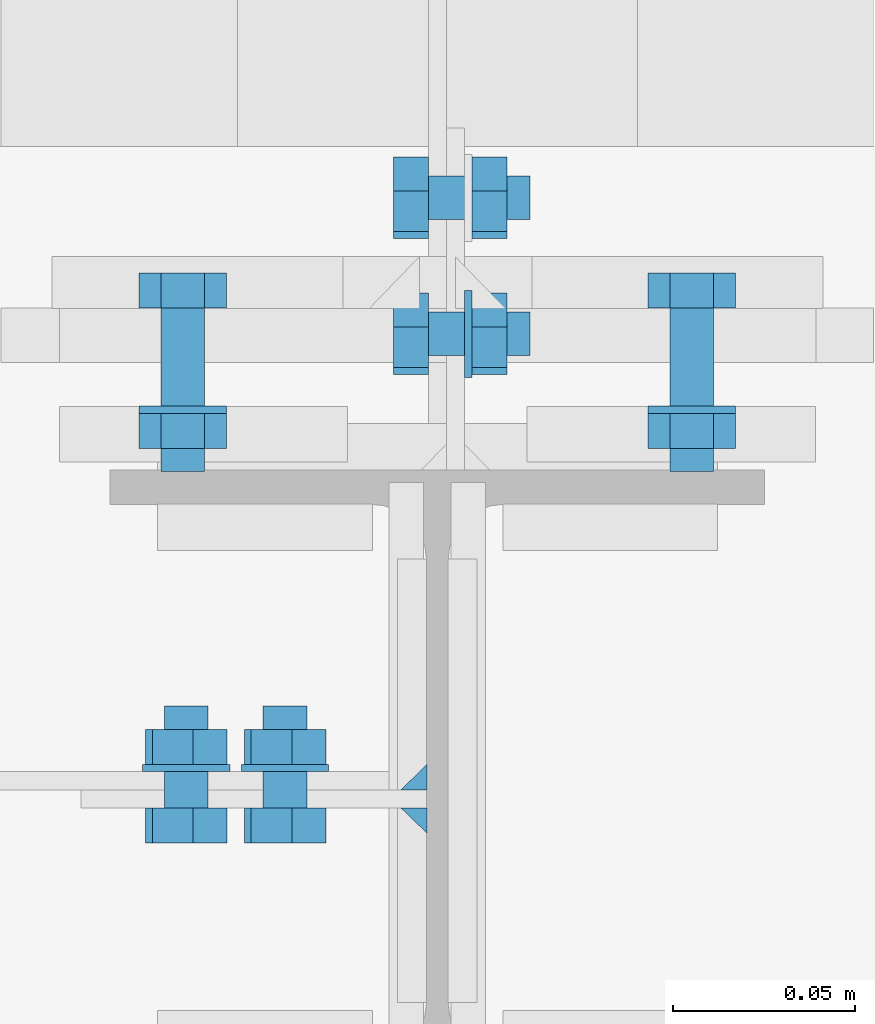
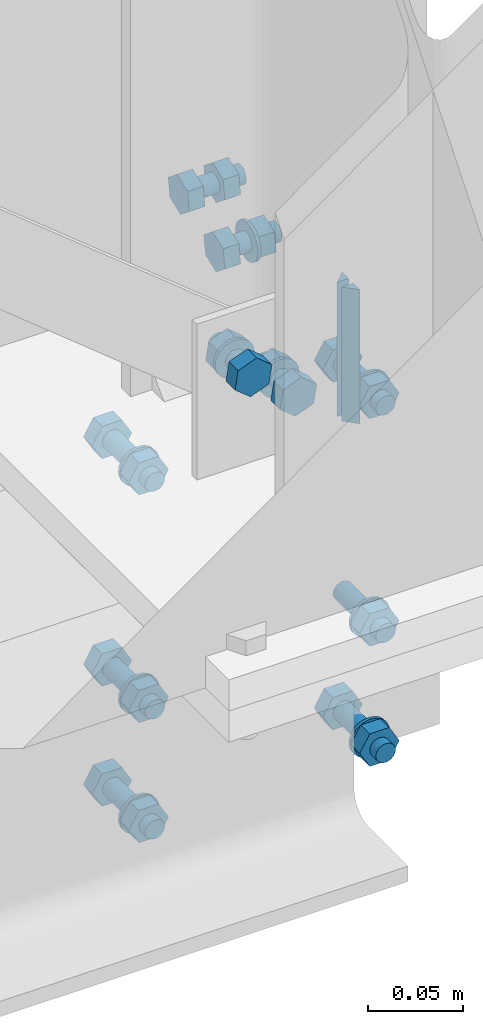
# One storey, part 56 of 66: 38 mechanical fasteners, 2 fasteners.
"""IFC4 building model written with IfcOpenShell, lengths in metres."""

from ifc_helpers import new_model, si_unit, frame, origin_with_axes, place, context, project, spatial, polyline, outline, extrude, type_object, element, save


model = new_model("IFC4")

# Units and contexts
model_context = context("Model", 3, precision=1e-05, world=origin_with_axes())
ifc_project = project(units=[si_unit("LENGTHUNIT", "METRE"), si_unit("AREAUNIT", "SQUARE_METRE"), si_unit("VOLUMEUNIT", "CUBIC_METRE"), si_unit("MASSUNIT", "GRAM", prefix="KILO"), si_unit("TIMEUNIT", "SECOND"), si_unit("PLANEANGLEUNIT", "RADIAN"), si_unit("SOLIDANGLEUNIT", "STERADIAN"), si_unit("THERMODYNAMICTEMPERATUREUNIT", "DEGREE_CELSIUS")], contexts=[model_context])

# Site, building, storey
placement_1 = place(None, origin_with_axes())
site = spatial("IfcSite", under=ifc_project, at=placement_1, Name="Italia", CompositionType="ELEMENT")
building = spatial("IfcBuilding", under=site, at=placement_1, Name="Uffici", CompositionType="ELEMENT")
storey_placement = place(None, frame((0.0, 0.0, 3.299999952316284), z_axis=(0.0, 0.0, 1.0), x_axis=(1.0, 0.0, 0.0)))
storey = spatial("IfcBuildingStorey", under=building, at=storey_placement, Name="Storey 1", CompositionType="ELEMENT", Elevation=3.299999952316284)

# Mechanical fasteners
mechanical_fastener_type_1 = type_object("IfcMechanicalFastenerType", Name="Collegamento 0105_-005", PredefinedType="BOLT")
placement_2 = place(placement_1, origin_with_axes())
mechanical_fastener_1_placement = place(placement_2, origin_with_axes())
element("IfcMechanicalFastener", 1, at=mechanical_fastener_1_placement, inside=storey, type_object=mechanical_fastener_type_1, Name="Collegamento 0105_-005", NominalDiameter=0.012, context=model_context, shape_type="SweptSolid", body=[
    extrude(outline(polyline([(0.0, 0.0), (-0.000204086, -0.00155282), (-0.000802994, -0.00300002), (-0.00175667, -0.00424266), (-0.00299931, -0.00519609), (-0.00444698, -0.00579548), (-0.00599957, -0.00600004), (-0.00755215, -0.00579548), (-0.00899982, -0.00519609), (-0.0102425, -0.00424266), (-0.0111961, -0.00300002), (-0.011795, -0.00155282), (-0.0119991, 0.0), (-0.011795, 0.00155282), (-0.0111961, 0.00300002), (-0.0102425, 0.00424266), (-0.00899982, 0.00519609), (-0.00755215, 0.00579548), (-0.00599957, 0.00600004), (-0.00444698, 0.00579548), (-0.00299931, 0.00519609), (-0.00175667, 0.00424266), (-0.000802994, 0.00300002), (-0.000204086, 0.00155282), (0.0, 0.0)])), frame((14.034, 0.085, 3.107), z_axis=(0.0, 1.0, 0.0), x_axis=(-1.0, 0.0, 0.0)), (0.0, 0.0, 1.0), 0.045),
])
mechanical_fastener_type_2 = type_object("IfcMechanicalFastenerType", Name="Collegamento 0105_-005", PredefinedType="BOLT")
mechanical_fastener_2_placement = place(placement_2, origin_with_axes())
element("IfcMechanicalFastener", 2, at=mechanical_fastener_2_placement, inside=storey, type_object=mechanical_fastener_type_2, Name="Collegamento 0105_-005", NominalDiameter=0.0119997, context=model_context, shape_type="SweptSolid", body=[
    extrude(outline(polyline([(0.0, 0.0), (-0.0120001, 0.0), (-0.0179996, 0.0103924), (-0.0120001, 0.0207846), (0.0, 0.0207846), (0.00600052, 0.0103924), (0.0, 0.0)])), frame((14.034, 0.0914, 3.09661), z_axis=(0.0, 1.0, 0.0), x_axis=(-1.0, 0.0, 0.0)), (0.0, 0.0, 1.0), 0.0096),
])
mechanical_fastener_type_3 = type_object("IfcMechanicalFastenerType", Name="Collegamento 0105_-005", PredefinedType="BOLT")
mechanical_fastener_3_placement = place(placement_2, origin_with_axes())
element("IfcMechanicalFastener", 3, at=mechanical_fastener_3_placement, inside=storey, type_object=mechanical_fastener_type_3, Name="Collegamento 0105_-005", NominalDiameter=0.024, context=model_context, shape_type="SweptSolid", body=[
    extrude(outline(polyline([(0.0, 0.0), (-0.000409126, -0.00310588), (-0.00160789, -0.00600004), (-0.00351524, -0.00848532), (-0.00600052, -0.0103922), (-0.00889397, -0.0115912), (-0.0120001, -0.0120001), (-0.0151062, -0.0115912), (-0.0179996, -0.0103922), (-0.0204849, -0.00848532), (-0.0223923, -0.00600004), (-0.023591, -0.00310588), (-0.0240002, 0.0), (-0.023591, 0.00310588), (-0.0223923, 0.00600004), (-0.0204849, 0.00848532), (-0.0179996, 0.0103922), (-0.0151062, 0.0115912), (-0.0120001, 0.0120001), (-0.00889397, 0.0115912), (-0.00600052, 0.0103922), (-0.00351524, 0.00848532), (-0.00160789, 0.00600004), (-0.000409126, 0.00310588), (0.0, 0.0)])), frame((14.028, 0.101, 3.107), z_axis=(0.0, 1.0, 0.0), x_axis=(-1.0, 0.0, 0.0)), (0.0, 0.0, 1.0), 0.002),
])
mechanical_fastener_type_4 = type_object("IfcMechanicalFastenerType", Name="Collegamento 0105_-005", PredefinedType="BOLT")
mechanical_fastener_4_placement = place(placement_2, origin_with_axes())
element("IfcMechanicalFastener", 4, at=mechanical_fastener_4_placement, inside=storey, type_object=mechanical_fastener_type_4, Name="Collegamento 0105_-005", NominalDiameter=0.0119997, context=model_context, shape_type="SweptSolid", body=[
    extrude(outline(polyline([(0.0, 0.0), (-0.0120001, 0.0), (-0.0180006, 0.0103924), (-0.0120001, 0.0207846), (0.0, 0.0207846), (0.00599957, 0.0103924), (0.0, 0.0)])), frame((13.894, 0.13, 3.09661), z_axis=(0.0, 1.0, 0.0), x_axis=(-1.0, 0.0, 0.0)), (0.0, 0.0, 1.0), 0.0096),
])
mechanical_fastener_type_5 = type_object("IfcMechanicalFastenerType", Name="Collegamento 0105_-005", PredefinedType="BOLT")
mechanical_fastener_5_placement = place(placement_2, origin_with_axes())
element("IfcMechanicalFastener", 5, at=mechanical_fastener_5_placement, inside=storey, type_object=mechanical_fastener_type_5, Name="Collegamento 0105_-005", NominalDiameter=0.012, context=model_context, shape_type="SweptSolid", body=[
    extrude(outline(polyline([(0.0, 0.0), (-0.000204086, -0.00155282), (-0.000802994, -0.00300002), (-0.00175667, -0.00424266), (-0.00299931, -0.00519609), (-0.00444698, -0.00579548), (-0.00599957, -0.00600004), (-0.00755215, -0.00579548), (-0.00899982, -0.00519609), (-0.0102425, -0.00424266), (-0.0111961, -0.00300002), (-0.011795, -0.00155282), (-0.0119991, 0.0), (-0.011795, 0.00155282), (-0.0111961, 0.00300002), (-0.0102425, 0.00424266), (-0.00899982, 0.00519609), (-0.00755215, 0.00579548), (-0.00599957, 0.00600004), (-0.00444698, 0.00579548), (-0.00299931, 0.00519609), (-0.00175667, 0.00424266), (-0.000802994, 0.00300002), (-0.000204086, 0.00155282), (0.0, 0.0)])), frame((13.894, 0.085, 3.107), z_axis=(0.0, 1.0, 0.0), x_axis=(-1.0, 0.0, 0.0)), (0.0, 0.0, 1.0), 0.045),
])
mechanical_fastener_type_6 = type_object("IfcMechanicalFastenerType", Name="Collegamento 0105_-005", PredefinedType="BOLT")
mechanical_fastener_6_placement = place(placement_2, origin_with_axes())
element("IfcMechanicalFastener", 6, at=mechanical_fastener_6_placement, inside=storey, type_object=mechanical_fastener_type_6, Name="Collegamento 0105_-005", NominalDiameter=0.0119997, context=model_context, shape_type="SweptSolid", body=[
    extrude(outline(polyline([(0.0, 0.0), (-0.0120001, 0.0), (-0.0180006, 0.0103924), (-0.0120001, 0.0207846), (0.0, 0.0207846), (0.00599957, 0.0103924), (0.0, 0.0)])), frame((13.894, 0.0914, 3.09661), z_axis=(0.0, 1.0, 0.0), x_axis=(-1.0, 0.0, 0.0)), (0.0, 0.0, 1.0), 0.00960001),
])
mechanical_fastener_type_7 = type_object("IfcMechanicalFastenerType", Name="Collegamento 0105_-005", PredefinedType="BOLT")
mechanical_fastener_7_placement = place(placement_2, origin_with_axes())
element("IfcMechanicalFastener", 7, at=mechanical_fastener_7_placement, inside=storey, type_object=mechanical_fastener_type_7, Name="Collegamento 0105_-005", NominalDiameter=0.024, context=model_context, shape_type="SweptSolid", body=[
    extrude(outline(polyline([(0.0, 0.0), (-0.000409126, -0.00310588), (-0.00160789, -0.00600004), (-0.00351524, -0.00848532), (-0.00600052, -0.0103922), (-0.00889397, -0.0115912), (-0.0120001, -0.0120001), (-0.0151062, -0.0115912), (-0.0179996, -0.0103922), (-0.0204849, -0.00848532), (-0.0223923, -0.00600004), (-0.023591, -0.00310588), (-0.0240002, 0.0), (-0.023591, 0.00310588), (-0.0223923, 0.00600004), (-0.0204849, 0.00848532), (-0.0179996, 0.0103922), (-0.0151062, 0.0115912), (-0.0120001, 0.0120001), (-0.00889397, 0.0115912), (-0.00600052, 0.0103922), (-0.00351524, 0.00848532), (-0.00160789, 0.00600004), (-0.000409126, 0.00310588), (0.0, 0.0)])), frame((13.888, 0.101, 3.107), z_axis=(0.0, 1.0, 0.0), x_axis=(-1.0, 0.0, 0.0)), (0.0, 0.0, 1.0), 0.002),
])
mechanical_fastener_type_8 = type_object("IfcMechanicalFastenerType", Name="Collegamento 0105_-005", PredefinedType="BOLT")
mechanical_fastener_8_placement = place(placement_2, origin_with_axes())
element("IfcMechanicalFastener", 8, at=mechanical_fastener_8_placement, inside=storey, type_object=mechanical_fastener_type_8, Name="Collegamento 0105_-005", NominalDiameter=0.0119997, context=model_context, shape_type="SweptSolid", body=[
    extrude(outline(polyline([(0.0, 0.0), (-0.0120001, 0.0), (-0.0179996, 0.0103922), (-0.0120001, 0.0207846), (0.0, 0.0207846), (0.00600052, 0.0103922), (0.0, 0.0)])), frame((14.034, 0.13, 3.24261), z_axis=(0.0, 1.0, 0.0), x_axis=(-1.0, 0.0, 0.0)), (0.0, 0.0, 1.0), 0.0096),
])
mechanical_fastener_type_9 = type_object("IfcMechanicalFastenerType", Name="Collegamento 0105_-005", PredefinedType="BOLT")
mechanical_fastener_9_placement = place(placement_2, origin_with_axes())
element("IfcMechanicalFastener", 9, at=mechanical_fastener_9_placement, inside=storey, type_object=mechanical_fastener_type_9, Name="Collegamento 0105_-005", NominalDiameter=0.012, context=model_context, shape_type="SweptSolid", body=[
    extrude(outline(polyline([(0.0, 0.0), (-0.000204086, -0.00155282), (-0.000802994, -0.00300002), (-0.00175667, -0.00424266), (-0.00299931, -0.00519609), (-0.00444698, -0.00579548), (-0.00599957, -0.00600004), (-0.00755215, -0.00579548), (-0.00899982, -0.00519609), (-0.0102425, -0.00424266), (-0.0111961, -0.00300002), (-0.011795, -0.00155282), (-0.0119991, 0.0), (-0.011795, 0.00155282), (-0.0111961, 0.00300002), (-0.0102425, 0.00424266), (-0.00899982, 0.00519609), (-0.00755215, 0.00579548), (-0.00599957, 0.00600004), (-0.00444698, 0.00579548), (-0.00299931, 0.00519609), (-0.00175667, 0.00424266), (-0.000802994, 0.00300002), (-0.000204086, 0.00155282), (0.0, 0.0)])), frame((14.034, 0.085, 3.253), z_axis=(0.0, 1.0, 0.0), x_axis=(-1.0, 0.0, 0.0)), (0.0, 0.0, 1.0), 0.045),
])
mechanical_fastener_type_10 = type_object("IfcMechanicalFastenerType", Name="Collegamento 0105_-005", PredefinedType="BOLT")
mechanical_fastener_10_placement = place(placement_2, origin_with_axes())
element("IfcMechanicalFastener", 10, at=mechanical_fastener_10_placement, inside=storey, type_object=mechanical_fastener_type_10, Name="Collegamento 0105_-005", NominalDiameter=0.0119997, context=model_context, shape_type="SweptSolid", body=[
    extrude(outline(polyline([(0.0, 0.0), (-0.0120001, 0.0), (-0.0179996, 0.0103922), (-0.0120001, 0.0207846), (0.0, 0.0207846), (0.00600052, 0.0103922), (0.0, 0.0)])), frame((14.034, 0.0914, 3.24261), z_axis=(0.0, 1.0, 0.0), x_axis=(-1.0, 0.0, 0.0)), (0.0, 0.0, 1.0), 0.0096),
])
mechanical_fastener_type_11 = type_object("IfcMechanicalFastenerType", Name="Collegamento 0105_-005", PredefinedType="BOLT")
mechanical_fastener_11_placement = place(placement_2, origin_with_axes())
element("IfcMechanicalFastener", 11, at=mechanical_fastener_11_placement, inside=storey, type_object=mechanical_fastener_type_11, Name="Collegamento 0105_-005", NominalDiameter=0.024, context=model_context, shape_type="SweptSolid", body=[
    extrude(outline(polyline([(0.0, 0.0), (-0.000409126, -0.00310588), (-0.00160789, -0.00600004), (-0.00351524, -0.00848532), (-0.00600052, -0.0103922), (-0.00889397, -0.0115912), (-0.0120001, -0.0120001), (-0.0151062, -0.0115912), (-0.0179996, -0.0103922), (-0.0204849, -0.00848532), (-0.0223923, -0.00600004), (-0.023591, -0.00310588), (-0.0240002, 0.0), (-0.023591, 0.00310588), (-0.0223923, 0.00600004), (-0.0204849, 0.00848532), (-0.0179996, 0.0103922), (-0.0151062, 0.0115912), (-0.0120001, 0.0120001), (-0.00889397, 0.0115912), (-0.00600052, 0.0103922), (-0.00351524, 0.00848532), (-0.00160789, 0.00600004), (-0.000409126, 0.00310588), (0.0, 0.0)])), frame((14.028, 0.101, 3.253), z_axis=(0.0, 1.0, 0.0), x_axis=(-1.0, 0.0, 0.0)), (0.0, 0.0, 1.0), 0.002),
])
mechanical_fastener_type_12 = type_object("IfcMechanicalFastenerType", Name="Collegamento 0105_-005", PredefinedType="BOLT")
mechanical_fastener_12_placement = place(placement_2, origin_with_axes())
element("IfcMechanicalFastener", 12, at=mechanical_fastener_12_placement, inside=storey, type_object=mechanical_fastener_type_12, Name="Collegamento 0105_-005", NominalDiameter=0.0119997, context=model_context, shape_type="SweptSolid", body=[
    extrude(outline(polyline([(0.0, 0.0), (-0.0120001, 0.0), (-0.0180006, 0.0103922), (-0.0120001, 0.0207846), (0.0, 0.0207846), (0.00599957, 0.0103922), (0.0, 0.0)])), frame((13.894, 0.13, 3.24261), z_axis=(0.0, 1.0, 0.0), x_axis=(-1.0, 0.0, 0.0)), (0.0, 0.0, 1.0), 0.0096),
])
mechanical_fastener_type_13 = type_object("IfcMechanicalFastenerType", Name="Collegamento 0105_-005", PredefinedType="BOLT")
mechanical_fastener_13_placement = place(placement_2, origin_with_axes())
element("IfcMechanicalFastener", 13, at=mechanical_fastener_13_placement, inside=storey, type_object=mechanical_fastener_type_13, Name="Collegamento 0105_-005", NominalDiameter=0.012, context=model_context, shape_type="SweptSolid", body=[
    extrude(outline(polyline([(0.0, 0.0), (-0.000204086, -0.00155282), (-0.000802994, -0.00300002), (-0.00175667, -0.00424266), (-0.00299931, -0.00519609), (-0.00444698, -0.00579548), (-0.00599957, -0.00600004), (-0.00755215, -0.00579548), (-0.00899982, -0.00519609), (-0.0102425, -0.00424266), (-0.0111961, -0.00300002), (-0.011795, -0.00155282), (-0.0119991, 0.0), (-0.011795, 0.00155282), (-0.0111961, 0.00300002), (-0.0102425, 0.00424266), (-0.00899982, 0.00519609), (-0.00755215, 0.00579548), (-0.00599957, 0.00600004), (-0.00444698, 0.00579548), (-0.00299931, 0.00519609), (-0.00175667, 0.00424266), (-0.000802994, 0.00300002), (-0.000204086, 0.00155282), (0.0, 0.0)])), frame((13.894, 0.085, 3.253), z_axis=(0.0, 1.0, 0.0), x_axis=(-1.0, 0.0, 0.0)), (0.0, 0.0, 1.0), 0.045),
])
mechanical_fastener_type_14 = type_object("IfcMechanicalFastenerType", Name="Collegamento 0105_-005", PredefinedType="BOLT")
mechanical_fastener_14_placement = place(placement_2, origin_with_axes())
element("IfcMechanicalFastener", 14, at=mechanical_fastener_14_placement, inside=storey, type_object=mechanical_fastener_type_14, Name="Collegamento 0105_-005", NominalDiameter=0.0119997, context=model_context, shape_type="SweptSolid", body=[
    extrude(outline(polyline([(0.0, 0.0), (-0.0120001, 0.0), (-0.0180006, 0.0103922), (-0.0120001, 0.0207846), (0.0, 0.0207846), (0.00599957, 0.0103922), (0.0, 0.0)])), frame((13.894, 0.0914, 3.24261), z_axis=(0.0, 1.0, 0.0), x_axis=(-1.0, 0.0, 0.0)), (0.0, 0.0, 1.0), 0.00960001),
])
mechanical_fastener_type_15 = type_object("IfcMechanicalFastenerType", Name="Collegamento 0105_-005", PredefinedType="BOLT")
mechanical_fastener_15_placement = place(placement_2, origin_with_axes())
element("IfcMechanicalFastener", 15, at=mechanical_fastener_15_placement, inside=storey, type_object=mechanical_fastener_type_15, Name="Collegamento 0105_-005", NominalDiameter=0.024, context=model_context, shape_type="SweptSolid", body=[
    extrude(outline(polyline([(0.0, 0.0), (-0.000409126, -0.00310588), (-0.00160789, -0.00600004), (-0.00351524, -0.00848532), (-0.00600052, -0.0103922), (-0.00889397, -0.0115912), (-0.0120001, -0.0120001), (-0.0151062, -0.0115912), (-0.0179996, -0.0103922), (-0.0204849, -0.00848532), (-0.0223923, -0.00600004), (-0.023591, -0.00310588), (-0.0240002, 0.0), (-0.023591, 0.00310588), (-0.0223923, 0.00600004), (-0.0204849, 0.00848532), (-0.0179996, 0.0103922), (-0.0151062, 0.0115912), (-0.0120001, 0.0120001), (-0.00889397, 0.0115912), (-0.00600052, 0.0103922), (-0.00351524, 0.00848532), (-0.00160789, 0.00600004), (-0.000409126, 0.00310588), (0.0, 0.0)])), frame((13.888, 0.101, 3.253), z_axis=(0.0, 1.0, 0.0), x_axis=(-1.0, 0.0, 0.0)), (0.0, 0.0, 1.0), 0.002),
])
mechanical_fastener_type_16 = type_object("IfcMechanicalFastenerType", Name="Collegamento 0105_-005", PredefinedType="BOLT")
mechanical_fastener_16_placement = place(placement_2, origin_with_axes())
element("IfcMechanicalFastener", 16, at=mechanical_fastener_16_placement, inside=storey, type_object=mechanical_fastener_type_16, Name="Collegamento 0105_-005", NominalDiameter=0.0119997, context=model_context, shape_type="SweptSolid", body=[
    extrude(outline(polyline([(0.0, 0.0), (-0.0120001, 0.0), (-0.0179996, 0.0103922), (-0.0120001, 0.0207846), (0.0, 0.0207846), (0.00600052, 0.0103922), (0.0, 0.0)])), frame((14.034, 0.13, 3.01961), z_axis=(0.0, 1.0, 0.0), x_axis=(-1.0, 0.0, 0.0)), (0.0, 0.0, 1.0), 0.0096),
])
mechanical_fastener_type_17 = type_object("IfcMechanicalFastenerType", Name="Collegamento 0105_-005", PredefinedType="BOLT")
mechanical_fastener_17_placement = place(placement_2, origin_with_axes())
element("IfcMechanicalFastener", 17, at=mechanical_fastener_17_placement, inside=storey, type_object=mechanical_fastener_type_17, Name="Collegamento 0105_-005", NominalDiameter=0.012, context=model_context, shape_type="SweptSolid", body=[
    extrude(outline(polyline([(0.0, 0.0), (-0.000204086, -0.00155282), (-0.000802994, -0.00300002), (-0.00175667, -0.00424266), (-0.00299931, -0.00519609), (-0.00444698, -0.00579548), (-0.00599957, -0.00600004), (-0.00755215, -0.00579548), (-0.00899982, -0.00519609), (-0.0102425, -0.00424266), (-0.0111961, -0.00300002), (-0.011795, -0.00155282), (-0.0119991, 0.0), (-0.011795, 0.00155282), (-0.0111961, 0.00300002), (-0.0102425, 0.00424266), (-0.00899982, 0.00519609), (-0.00755215, 0.00579548), (-0.00599957, 0.00600004), (-0.00444698, 0.00579548), (-0.00299931, 0.00519609), (-0.00175667, 0.00424266), (-0.000802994, 0.00300002), (-0.000204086, 0.00155282), (0.0, 0.0)])), frame((14.034, 0.085, 3.03), z_axis=(0.0, 1.0, 0.0), x_axis=(-1.0, 0.0, 0.0)), (0.0, 0.0, 1.0), 0.045),
])
mechanical_fastener_type_18 = type_object("IfcMechanicalFastenerType", Name="Collegamento 0105_-005", PredefinedType="BOLT")
mechanical_fastener_18_placement = place(placement_2, origin_with_axes())
element("IfcMechanicalFastener", 18, at=mechanical_fastener_18_placement, inside=storey, type_object=mechanical_fastener_type_18, Name="Collegamento 0105_-005", NominalDiameter=0.0119997, context=model_context, shape_type="SweptSolid", body=[
    extrude(outline(polyline([(0.0, 0.0), (-0.0120001, 0.0), (-0.0179996, 0.0103922), (-0.0120001, 0.0207846), (0.0, 0.0207846), (0.00600052, 0.0103922), (0.0, 0.0)])), frame((14.034, 0.0914, 3.01961), z_axis=(0.0, 1.0, 0.0), x_axis=(-1.0, 0.0, 0.0)), (0.0, 0.0, 1.0), 0.0096),
])
mechanical_fastener_type_19 = type_object("IfcMechanicalFastenerType", Name="Collegamento 0105_-005", PredefinedType="BOLT")
mechanical_fastener_19_placement = place(placement_2, origin_with_axes())
element("IfcMechanicalFastener", 19, at=mechanical_fastener_19_placement, inside=storey, type_object=mechanical_fastener_type_19, Name="Collegamento 0105_-005", NominalDiameter=0.024, context=model_context, shape_type="SweptSolid", body=[
    extrude(outline(polyline([(0.0, 0.0), (-0.000409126, -0.00310588), (-0.00160789, -0.00600004), (-0.00351524, -0.00848532), (-0.00600052, -0.0103922), (-0.00889397, -0.0115912), (-0.0120001, -0.0120001), (-0.0151062, -0.0115912), (-0.0179996, -0.0103922), (-0.0204849, -0.00848532), (-0.0223923, -0.00600004), (-0.023591, -0.00310588), (-0.0240002, 0.0), (-0.023591, 0.00310588), (-0.0223923, 0.00600004), (-0.0204849, 0.00848532), (-0.0179996, 0.0103922), (-0.0151062, 0.0115912), (-0.0120001, 0.0120001), (-0.00889397, 0.0115912), (-0.00600052, 0.0103922), (-0.00351524, 0.00848532), (-0.00160789, 0.00600004), (-0.000409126, 0.00310588), (0.0, 0.0)])), frame((14.028, 0.101, 3.03), z_axis=(0.0, 1.0, 0.0), x_axis=(-1.0, 0.0, 0.0)), (0.0, 0.0, 1.0), 0.002),
])
mechanical_fastener_type_20 = type_object("IfcMechanicalFastenerType", Name="Collegamento 0105_-005", PredefinedType="BOLT")
mechanical_fastener_20_placement = place(placement_2, origin_with_axes())
element("IfcMechanicalFastener", 20, at=mechanical_fastener_20_placement, inside=storey, type_object=mechanical_fastener_type_20, Name="Collegamento 0105_-005", NominalDiameter=0.0119997, context=model_context, shape_type="SweptSolid", body=[
    extrude(outline(polyline([(0.0, 0.0), (-0.0120001, 0.0), (-0.0180006, 0.0103922), (-0.0120001, 0.0207846), (0.0, 0.0207846), (0.00599957, 0.0103922), (0.0, 0.0)])), frame((13.894, 0.13, 3.01961), z_axis=(0.0, 1.0, 0.0), x_axis=(-1.0, 0.0, 0.0)), (0.0, 0.0, 1.0), 0.0096),
])
mechanical_fastener_type_21 = type_object("IfcMechanicalFastenerType", Name="Collegamento 0105_-005", PredefinedType="BOLT")
mechanical_fastener_21_placement = place(placement_2, origin_with_axes())
element("IfcMechanicalFastener", 21, at=mechanical_fastener_21_placement, inside=storey, type_object=mechanical_fastener_type_21, Name="Collegamento 0105_-005", NominalDiameter=0.012, context=model_context, shape_type="SweptSolid", body=[
    extrude(outline(polyline([(0.0, 0.0), (-0.000204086, -0.00155282), (-0.000802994, -0.00300002), (-0.00175667, -0.00424266), (-0.00299931, -0.00519609), (-0.00444698, -0.00579548), (-0.00599957, -0.00600004), (-0.00755215, -0.00579548), (-0.00899982, -0.00519609), (-0.0102425, -0.00424266), (-0.0111961, -0.00300002), (-0.011795, -0.00155282), (-0.0119991, 0.0), (-0.011795, 0.00155282), (-0.0111961, 0.00300002), (-0.0102425, 0.00424266), (-0.00899982, 0.00519609), (-0.00755215, 0.00579548), (-0.00599957, 0.00600004), (-0.00444698, 0.00579548), (-0.00299931, 0.00519609), (-0.00175667, 0.00424266), (-0.000802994, 0.00300002), (-0.000204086, 0.00155282), (0.0, 0.0)])), frame((13.894, 0.085, 3.03), z_axis=(0.0, 1.0, 0.0), x_axis=(-1.0, 0.0, 0.0)), (0.0, 0.0, 1.0), 0.045),
])
mechanical_fastener_type_22 = type_object("IfcMechanicalFastenerType", Name="Collegamento 0105_-005", PredefinedType="BOLT")
mechanical_fastener_22_placement = place(placement_2, origin_with_axes())
element("IfcMechanicalFastener", 22, at=mechanical_fastener_22_placement, inside=storey, type_object=mechanical_fastener_type_22, Name="Collegamento 0105_-005", NominalDiameter=0.0119997, context=model_context, shape_type="SweptSolid", body=[
    extrude(outline(polyline([(0.0, 0.0), (-0.0120001, 0.0), (-0.0180006, 0.0103922), (-0.0120001, 0.0207846), (0.0, 0.0207846), (0.00599957, 0.0103922), (0.0, 0.0)])), frame((13.894, 0.0914, 3.01961), z_axis=(0.0, 1.0, 0.0), x_axis=(-1.0, 0.0, 0.0)), (0.0, 0.0, 1.0), 0.00960001),
])
mechanical_fastener_type_23 = type_object("IfcMechanicalFastenerType", Name="Collegamento 0105_-005", PredefinedType="BOLT")
mechanical_fastener_23_placement = place(placement_2, origin_with_axes())
element("IfcMechanicalFastener", 23, at=mechanical_fastener_23_placement, inside=storey, type_object=mechanical_fastener_type_23, Name="Collegamento 0105_-005", NominalDiameter=0.024, context=model_context, shape_type="SweptSolid", body=[
    extrude(outline(polyline([(0.0, 0.0), (-0.000409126, -0.00310588), (-0.00160789, -0.00600004), (-0.00351524, -0.00848532), (-0.00600052, -0.0103922), (-0.00889397, -0.0115912), (-0.0120001, -0.0120001), (-0.0151062, -0.0115912), (-0.0179996, -0.0103922), (-0.0204849, -0.00848532), (-0.0223923, -0.00600004), (-0.023591, -0.00310588), (-0.0240002, 0.0), (-0.023591, 0.00310588), (-0.0223923, 0.00600004), (-0.0204849, 0.00848532), (-0.0179996, 0.0103922), (-0.0151062, 0.0115912), (-0.0120001, 0.0120001), (-0.00889397, 0.0115912), (-0.00600052, 0.0103922), (-0.00351524, 0.00848532), (-0.00160789, 0.00600004), (-0.000409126, 0.00310588), (0.0, 0.0)])), frame((13.888, 0.101, 3.03), z_axis=(0.0, 1.0, 0.0), x_axis=(-1.0, 0.0, 0.0)), (0.0, 0.0, 1.0), 0.002),
])
mechanical_fastener_type_24 = type_object("IfcMechanicalFastenerType", Name="Collegamento 0105_0204", PredefinedType="BOLT")
mechanical_fastener_24_placement = place(placement_2, origin_with_axes())
element("IfcMechanicalFastener", 24, at=mechanical_fastener_24_placement, inside=storey, type_object=mechanical_fastener_type_24, Name="Collegamento 0105_0204", NominalDiameter=0.0119999, context=model_context, shape_type="SweptSolid", body=[
    extrude(outline(polyline([(0.0, 0.0), (0.00932503, -0.00755262), (0.0205288, -0.00325346), (0.0224075, 0.0085988), (0.0130825, 0.0161514), (0.00187874, 0.011852), (0.0, 0.0)])), frame((13.9169, -0.0075, 3.35532), z_axis=(0.0, -1.0, 0.0), x_axis=(1.0, 0.0, 0.0)), (0.0, 0.0, 1.0), 0.0096),
])
mechanical_fastener_type_25 = type_object("IfcMechanicalFastenerType", Name="Collegamento 0105_0204", PredefinedType="BOLT")
mechanical_fastener_25_placement = place(placement_2, origin_with_axes())
element("IfcMechanicalFastener", 25, at=mechanical_fastener_25_placement, inside=storey, type_object=mechanical_fastener_type_25, Name="Collegamento 0105_0204", NominalDiameter=0.012, context=model_context, shape_type="SweptSolid", body=[
    extrude(outline(polyline([(0.0, 0.0), (-0.000204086, -0.00155282), (-0.000802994, -0.00300002), (-0.00175667, -0.00424266), (-0.00299931, -0.00519609), (-0.00444698, -0.00579548), (-0.00599957, -0.00600004), (-0.00755215, -0.00579548), (-0.00899982, -0.00519609), (-0.0102425, -0.00424266), (-0.0111961, -0.00300002), (-0.011795, -0.00155282), (-0.0119991, 0.0), (-0.011795, 0.00155282), (-0.0111961, 0.00300002), (-0.0102425, 0.00424266), (-0.00899982, 0.00519609), (-0.00755215, 0.00579548), (-0.00599957, 0.00600004), (-0.00444698, 0.00579548), (-0.00299931, 0.00519609), (-0.00175667, 0.00424266), (-0.000802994, 0.00300002), (-0.000204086, 0.00155282), (0.0, 0.0)])), frame((13.9341, 0.0205, 3.35962), z_axis=(0.0, -1.0, 0.0), x_axis=(1.0, 0.0, 0.0)), (0.0, 0.0, 1.0), 0.028),
])
mechanical_fastener_type_26 = type_object("IfcMechanicalFastenerType", Name="Collegamento 0105_0204", PredefinedType="BOLT")
mechanical_fastener_26_placement = place(placement_2, origin_with_axes())
element("IfcMechanicalFastener", 26, at=mechanical_fastener_26_placement, inside=storey, type_object=mechanical_fastener_type_26, Name="Collegamento 0105_0204", NominalDiameter=0.0119999, context=model_context, shape_type="SweptSolid", body=[
    extrude(outline(polyline([(0.0, 0.0), (0.00932503, -0.00755262), (0.0205288, -0.00325346), (0.0224075, 0.0085988), (0.0130825, 0.0161514), (0.00187874, 0.011852), (0.0, 0.0)])), frame((13.9169, 0.0141, 3.35532), z_axis=(0.0, -1.0, 0.0), x_axis=(1.0, 0.0, 0.0)), (0.0, 0.0, 1.0), 0.0096),
])
mechanical_fastener_type_27 = type_object("IfcMechanicalFastenerType", Name="Collegamento 0105_0204", PredefinedType="BOLT")
mechanical_fastener_27_placement = place(placement_2, origin_with_axes())
element("IfcMechanicalFastener", 27, at=mechanical_fastener_27_placement, inside=storey, type_object=mechanical_fastener_type_27, Name="Collegamento 0105_0204", NominalDiameter=0.024, context=model_context, shape_type="SweptSolid", body=[
    extrude(outline(polyline([(0.0, 0.0), (-0.000409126, -0.00310588), (-0.00160789, -0.00600004), (-0.00351524, -0.00848532), (-0.00600052, -0.0103922), (-0.00889397, -0.0115912), (-0.0120001, -0.0120001), (-0.0151062, -0.0115912), (-0.0179996, -0.0103922), (-0.0204849, -0.00848532), (-0.0223923, -0.00600004), (-0.023591, -0.00310588), (-0.0240002, 0.0), (-0.023591, 0.00310588), (-0.0223923, 0.00600004), (-0.0204849, 0.00848532), (-0.0179996, 0.0103922), (-0.0151062, 0.0115912), (-0.0120001, 0.0120001), (-0.00889397, 0.0115912), (-0.00600052, 0.0103922), (-0.00351524, 0.00848532), (-0.00160789, 0.00600004), (-0.000409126, 0.00310588), (0.0, 0.0)])), frame((13.9401, 0.0045, 3.35962), z_axis=(0.0, -1.0, 0.0), x_axis=(1.0, 0.0, 0.0)), (0.0, 0.0, 1.0), 0.002),
])
mechanical_fastener_type_28 = type_object("IfcMechanicalFastenerType", Name="Collegamento 0105_0204", PredefinedType="BOLT")
mechanical_fastener_28_placement = place(placement_2, origin_with_axes())
element("IfcMechanicalFastener", 28, at=mechanical_fastener_28_placement, inside=storey, type_object=mechanical_fastener_type_28, Name="Collegamento 0105_0204", NominalDiameter=0.012, context=model_context, shape_type="SweptSolid", body=[
    extrude(outline(polyline([(0.0, 0.0), (0.00932503, -0.00755286), (0.0205288, -0.00325346), (0.0224075, 0.00859857), (0.0130825, 0.0161514), (0.00187874, 0.011852), (0.0, 0.0)])), frame((13.8897, -0.0075, 3.37735), z_axis=(0.0, -1.0, 0.0), x_axis=(1.0, 0.0, 0.0)), (0.0, 0.0, 1.0), 0.0096),
])
mechanical_fastener_type_29 = type_object("IfcMechanicalFastenerType", Name="Collegamento 0105_0204", PredefinedType="BOLT")
mechanical_fastener_29_placement = place(placement_2, origin_with_axes())
element("IfcMechanicalFastener", 29, at=mechanical_fastener_29_placement, inside=storey, type_object=mechanical_fastener_type_29, Name="Collegamento 0105_0204", NominalDiameter=0.012, context=model_context, shape_type="SweptSolid", body=[
    extrude(outline(polyline([(0.0, 0.0), (-0.000204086, -0.00155282), (-0.000802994, -0.00300002), (-0.00175667, -0.00424266), (-0.00299931, -0.00519609), (-0.00444698, -0.00579548), (-0.00599957, -0.00600004), (-0.00755215, -0.00579548), (-0.00899982, -0.00519609), (-0.0102425, -0.00424266), (-0.0111961, -0.00300002), (-0.011795, -0.00155282), (-0.0119991, 0.0), (-0.011795, 0.00155282), (-0.0111961, 0.00300002), (-0.0102425, 0.00424266), (-0.00899982, 0.00519609), (-0.00755215, 0.00579548), (-0.00599957, 0.00600004), (-0.00444698, 0.00579548), (-0.00299931, 0.00519609), (-0.00175667, 0.00424266), (-0.000802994, 0.00300002), (-0.000204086, 0.00155282), (0.0, 0.0)])), frame((13.9069, 0.0205, 3.38165), z_axis=(0.0, -1.0, 0.0), x_axis=(1.0, 0.0, 0.0)), (0.0, 0.0, 1.0), 0.028),
])
mechanical_fastener_type_30 = type_object("IfcMechanicalFastenerType", Name="Collegamento 0105_0204", PredefinedType="BOLT")
mechanical_fastener_30_placement = place(placement_2, origin_with_axes())
element("IfcMechanicalFastener", 30, at=mechanical_fastener_30_placement, inside=storey, type_object=mechanical_fastener_type_30, Name="Collegamento 0105_0204", NominalDiameter=0.012, context=model_context, shape_type="SweptSolid", body=[
    extrude(outline(polyline([(0.0, 0.0), (0.00932503, -0.00755286), (0.0205288, -0.00325346), (0.0224075, 0.00859857), (0.0130825, 0.0161514), (0.00187874, 0.011852), (0.0, 0.0)])), frame((13.8897, 0.0141, 3.37735), z_axis=(0.0, -1.0, 0.0), x_axis=(1.0, 0.0, 0.0)), (0.0, 0.0, 1.0), 0.0096),
])
mechanical_fastener_type_31 = type_object("IfcMechanicalFastenerType", Name="Collegamento 0105_0204", PredefinedType="BOLT")
mechanical_fastener_31_placement = place(placement_2, origin_with_axes())
element("IfcMechanicalFastener", 31, at=mechanical_fastener_31_placement, inside=storey, type_object=mechanical_fastener_type_31, Name="Collegamento 0105_0204", NominalDiameter=0.024, context=model_context, shape_type="SweptSolid", body=[
    extrude(outline(polyline([(0.0, 0.0), (-0.000409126, -0.00310588), (-0.00160789, -0.00600004), (-0.00351524, -0.00848532), (-0.00600052, -0.0103922), (-0.00889397, -0.0115912), (-0.0120001, -0.0120001), (-0.0151062, -0.0115912), (-0.0179996, -0.0103922), (-0.0204849, -0.00848532), (-0.0223923, -0.00600004), (-0.023591, -0.00310588), (-0.0240002, 0.0), (-0.023591, 0.00310588), (-0.0223923, 0.00600004), (-0.0204849, 0.00848532), (-0.0179996, 0.0103922), (-0.0151062, 0.0115912), (-0.0120001, 0.0120001), (-0.00889397, 0.0115912), (-0.00600052, 0.0103922), (-0.00351524, 0.00848532), (-0.00160789, 0.00600004), (-0.000409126, 0.00310588), (0.0, 0.0)])), frame((13.9129, 0.0045, 3.38165), z_axis=(0.0, -1.0, 0.0), x_axis=(1.0, 0.0, 0.0)), (0.0, 0.0, 1.0), 0.002),
])

# Fasteners
fastener_type_1 = type_object("IfcFastenerType", Name="Collegamento 0105_0204", PredefinedType="WELD")
fastener_1_placement = place(placement_2, origin_with_axes())
element("IfcFastener", 32, at=fastener_1_placement, inside=storey, type_object=fastener_type_1, Name="Collegamento 0105_0204", context=model_context, shape_type="SweptSolid", body=[
    extrude(outline(polyline([(0.0, 0.0), (-0.00695816, -0.00717258), (-0.00695816, 0.0), (0.0, 0.0)])), frame((13.9671, 0.00440816, 3.4131), z_axis=(0.0, 0.0, -1.0), x_axis=(0.0, 1.0, 0.0)), (0.0, 0.0, 1.0), 0.0861001),
])
fastener_type_2 = type_object("IfcFastenerType", Name="Collegamento 0105_0204", PredefinedType="WELD")
fastener_2_placement = place(placement_2, origin_with_axes())
element("IfcFastener", 33, at=fastener_2_placement, inside=storey, type_object=fastener_type_2, Name="Collegamento 0105_0204", context=model_context, shape_type="SweptSolid", body=[
    extrude(outline(polyline([(0.0, 0.0), (0.00695815, 0.00717258), (0.00695815, 0.0), (0.0, 0.0)])), frame((13.9671, -0.0144082, 3.327), z_axis=(0.0, 0.0, 1.0), x_axis=(0.0, 1.0, 0.0)), (0.0, 0.0, 1.0), 0.0861001),
])

# Mechanical fasteners
mechanical_fastener_type_32 = type_object("IfcMechanicalFastenerType", Name="Collegamento 0105_0210", PredefinedType="BOLT")
mechanical_fastener_32_placement = place(placement_2, origin_with_axes())
element("IfcMechanicalFastener", 34, at=mechanical_fastener_32_placement, inside=storey, type_object=mechanical_fastener_type_32, Name="Collegamento 0105_0210", NominalDiameter=0.0119998, context=model_context, shape_type="SweptSolid", body=[
    extrude(outline(polyline([(0.0, 0.0), (0.0112203, -0.00425506), (0.0205154, 0.00333452), (0.0185901, 0.0151792), (0.00736985, 0.019434), (-0.00192523, 0.0118444), (0.0, 0.0)])), frame((13.9675, 0.132196, 3.34971), z_axis=(-1.0, 0.0, 0.0), x_axis=(0.0, -1.0, 0.0)), (0.0, 0.0, 1.0), 0.00960064),
])
mechanical_fastener_type_33 = type_object("IfcMechanicalFastenerType", Name="Collegamento 0105_0210", PredefinedType="BOLT")
mechanical_fastener_33_placement = place(placement_2, origin_with_axes())
element("IfcMechanicalFastener", 35, at=mechanical_fastener_33_placement, inside=storey, type_object=mechanical_fastener_type_33, Name="Collegamento 0105_0210", NominalDiameter=0.012, context=model_context, shape_type="SweptSolid", body=[
    extrude(outline(polyline([(0.0, 0.0), (-0.000204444, -0.00155282), (-0.000803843, -0.00300002), (-0.00175735, -0.00424266), (-0.003, -0.00519609), (-0.00444708, -0.00579548), (-0.006, -0.00600004), (-0.00755291, -0.00579548), (-0.009, -0.00519609), (-0.0102426, -0.00424266), (-0.0111962, -0.00300002), (-0.0117956, -0.00155282), (-0.012, 0.0), (-0.0117956, 0.00155282), (-0.0111962, 0.00300002), (-0.0102426, 0.00424266), (-0.009, 0.00519609), (-0.00755291, 0.00579548), (-0.006, 0.00600004), (-0.00444708, 0.00579548), (-0.003, 0.00519609), (-0.00175735, 0.00424266), (-0.000803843, 0.00300002), (-0.000204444, 0.00155282), (0.0, 0.0)])), frame((13.9955, 0.116901, 3.3573), z_axis=(-1.0, 0.0, 0.0), x_axis=(0.0, -1.0, 0.0)), (0.0, 0.0, 1.0), 0.0279999),
])
mechanical_fastener_type_34 = type_object("IfcMechanicalFastenerType", Name="Collegamento 0105_0210", PredefinedType="BOLT")
mechanical_fastener_34_placement = place(placement_2, origin_with_axes())
element("IfcMechanicalFastener", 36, at=mechanical_fastener_34_placement, inside=storey, type_object=mechanical_fastener_type_34, Name="Collegamento 0105_0210", NominalDiameter=0.0119998, context=model_context, shape_type="SweptSolid", body=[
    extrude(outline(polyline([(0.0, 0.0), (0.0112203, -0.00425506), (0.0205154, 0.00333452), (0.0185901, 0.0151792), (0.00736985, 0.019434), (-0.00192523, 0.0118444), (0.0, 0.0)])), frame((13.9891, 0.132196, 3.34971), z_axis=(-1.0, 0.0, 0.0), x_axis=(0.0, -1.0, 0.0)), (0.0, 0.0, 1.0), 0.00960064),
])
mechanical_fastener_type_35 = type_object("IfcMechanicalFastenerType", Name="Collegamento 0105_0210", PredefinedType="BOLT")
mechanical_fastener_35_placement = place(placement_2, origin_with_axes())
element("IfcMechanicalFastener", 37, at=mechanical_fastener_35_placement, inside=storey, type_object=mechanical_fastener_type_35, Name="Collegamento 0105_0210", NominalDiameter=0.024, context=model_context, shape_type="SweptSolid", body=[
    extrude(outline(polyline([(0.0, 0.0), (-0.000408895, -0.00310588), (-0.00160769, -0.00600004), (-0.00351472, -0.00848532), (-0.006, -0.0103922), (-0.00889418, -0.0115912), (-0.012, -0.0120001), (-0.0151058, -0.0115912), (-0.018, -0.0103922), (-0.0204853, -0.00848532), (-0.0223923, -0.00600004), (-0.0235911, -0.00310588), (-0.024, 0.0), (-0.0235911, 0.00310588), (-0.0223923, 0.00600004), (-0.0204853, 0.00848532), (-0.018, 0.0103922), (-0.0151058, 0.0115912), (-0.012, 0.0120001), (-0.00889418, 0.0115912), (-0.006, 0.0103922), (-0.00351471, 0.00848532), (-0.00160769, 0.00600004), (-0.000408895, 0.00310588), (0.0, 0.0)])), frame((13.9795, 0.110901, 3.3573), z_axis=(-1.0, 0.0, 0.0), x_axis=(0.0, -1.0, 0.0)), (0.0, 0.0, 1.0), 0.00199986),
])
mechanical_fastener_type_36 = type_object("IfcMechanicalFastenerType", Name="Collegamento 0105_0210", PredefinedType="BOLT")
mechanical_fastener_36_placement = place(placement_2, origin_with_axes())
element("IfcMechanicalFastener", 38, at=mechanical_fastener_36_placement, inside=storey, type_object=mechanical_fastener_type_36, Name="Collegamento 0105_0210", NominalDiameter=0.0119998, context=model_context, shape_type="SweptSolid", body=[
    extrude(outline(polyline([(0.0, 0.0), (0.0112203, -0.00425506), (0.0205154, 0.00333452), (0.0185901, 0.0151792), (0.00736985, 0.019434), (-0.00192524, 0.0118444), (0.0, 0.0)])), frame((13.9675, 0.169597, 3.36389), z_axis=(-1.0, 0.0, 0.0), x_axis=(0.0, -1.0, 0.0)), (0.0, 0.0, 1.0), 0.00960064),
])
mechanical_fastener_type_37 = type_object("IfcMechanicalFastenerType", Name="Collegamento 0105_0210", PredefinedType="BOLT")
mechanical_fastener_37_placement = place(placement_2, origin_with_axes())
element("IfcMechanicalFastener", 39, at=mechanical_fastener_37_placement, inside=storey, type_object=mechanical_fastener_type_37, Name="Collegamento 0105_0210", NominalDiameter=0.012, context=model_context, shape_type="SweptSolid", body=[
    extrude(outline(polyline([(0.0, 0.0), (-0.000204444, -0.00155282), (-0.000803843, -0.00300002), (-0.00175735, -0.00424266), (-0.00299999, -0.00519609), (-0.00444709, -0.00579548), (-0.006, -0.00600004), (-0.00755291, -0.00579548), (-0.009, -0.00519609), (-0.0102426, -0.00424266), (-0.0111962, -0.00300002), (-0.0117956, -0.00155282), (-0.012, 0.0), (-0.0117956, 0.00155282), (-0.0111962, 0.00300002), (-0.0102426, 0.00424266), (-0.009, 0.00519609), (-0.00755291, 0.00579548), (-0.006, 0.00600004), (-0.00444709, 0.00579548), (-0.00299999, 0.00519609), (-0.00175735, 0.00424266), (-0.000803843, 0.00300002), (-0.000204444, 0.00155282), (0.0, 0.0)])), frame((13.9955, 0.154302, 3.37148), z_axis=(-1.0, 0.0, 0.0), x_axis=(0.0, -1.0, 0.0)), (0.0, 0.0, 1.0), 0.0279999),
])
mechanical_fastener_type_38 = type_object("IfcMechanicalFastenerType", Name="Collegamento 0105_0210", PredefinedType="BOLT")
mechanical_fastener_38_placement = place(placement_2, origin_with_axes())
element("IfcMechanicalFastener", 40, at=mechanical_fastener_38_placement, inside=storey, type_object=mechanical_fastener_type_38, Name="Collegamento 0105_0210", NominalDiameter=0.0119998, context=model_context, shape_type="SweptSolid", body=[
    extrude(outline(polyline([(0.0, 0.0), (0.0112203, -0.00425506), (0.0205154, 0.00333452), (0.0185901, 0.0151792), (0.00736985, 0.019434), (-0.00192524, 0.0118444), (0.0, 0.0)])), frame((13.9891, 0.169597, 3.36389), z_axis=(-1.0, 0.0, 0.0), x_axis=(0.0, -1.0, 0.0)), (0.0, 0.0, 1.0), 0.00960064),
])

save(model, "model.ifc")
